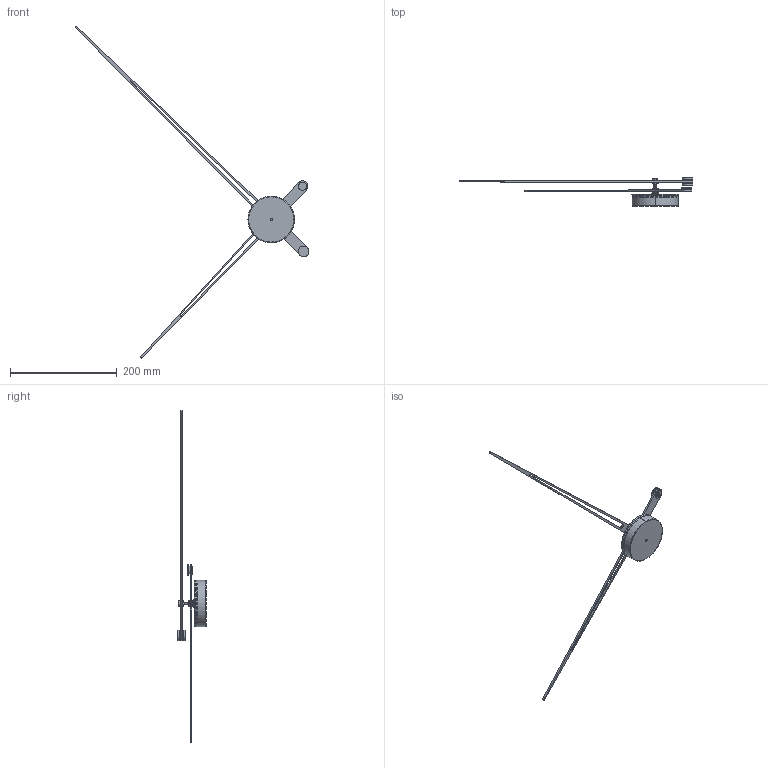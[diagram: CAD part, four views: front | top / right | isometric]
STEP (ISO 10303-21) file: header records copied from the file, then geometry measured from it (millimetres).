
FILE_DESCRIPTION (( 'STEP AP214' ), '1' );
FILE_NAME ('Axioma_g_100.STEP', '2021-09-06T08:15:37', ( '' ), ( '' ), 'SwSTEP 2.0', 'SolidWorks 2016', '' );
FILE_SCHEMA (( 'AUTOMOTIVE_DESIGN' ));
Length unit declared in the file: millimetre
Products named in the file (18): MECANISMO_SINGULAR; Tuerca 1.5; Pieza_caja_superior; Pieza2; Aguja_horaria_calada_nogal; Axioma_g_100; Embellecedor; aguja_horaria_calada_nogal; Contrapeso_pequeño; Esparrago; Arandela_2; Contrapeso grande; aguja_minutera_calada_nogal; Pasante; Aguja_minutera_calada_nogal; Pieza_caja_inferior; Cierre_contrapeso; Tuerca
Assembly tree (19 placements, depth 3):
  Axioma_g_100
    Aguja_horaria_calada_nogal
      aguja_horaria_calada_nogal
      Contrapeso_pequeño
      Cierre_contrapeso
      Arandela_2
      Tuerca
      Pasante
    Aguja_minutera_calada_nogal
      aguja_minutera_calada_nogal
      Contrapeso grande  x2
      Arandela_2
      Embellecedor
      Esparrago
      Tuerca 1.5
    Pieza_caja_inferior
    Pieza_caja_superior
    Pieza2
    MECANISMO_SINGULAR
Bounding box: 437.74 x 53.28 x 621.2 mm (x, y, z)
Volume: 78315.2 mm3; surface area: 91422.8 mm2
Topology: 17 solids, 17 shells, 386 faces, 934 edges, 607 vertices
Faces by surface type: plane 127, cylinder 115, bspline 106, torus 26, cone 10, sphere 2
Entity records: 13712 total; most frequent: CARTESIAN_POINT 4654, ORIENTED_EDGE 1812, DIRECTION 1546, EDGE_CURVE 906, VERTEX_POINT 589, AXIS2_PLACEMENT_3D 561, EDGE_LOOP 425, LINE 424
